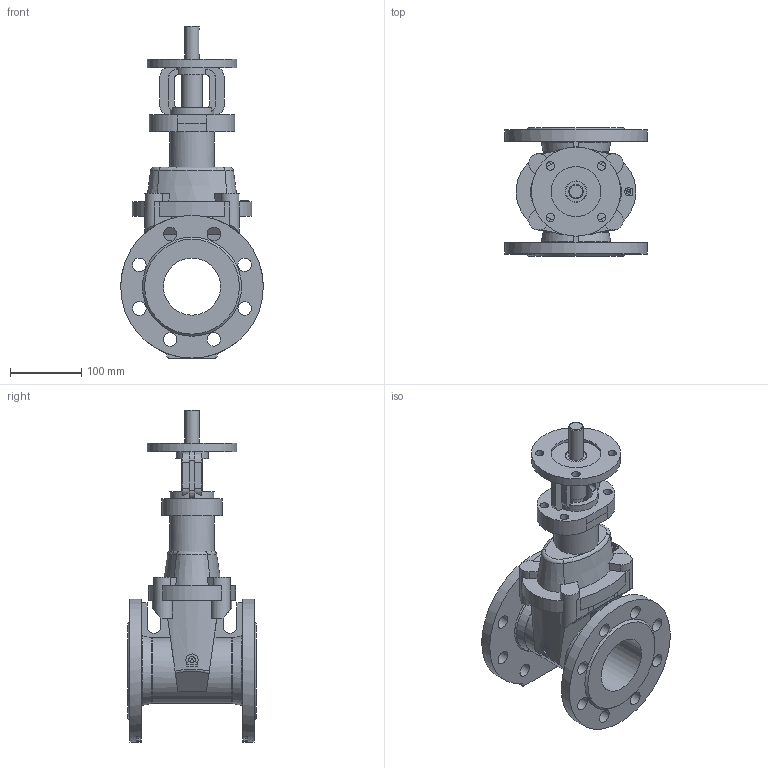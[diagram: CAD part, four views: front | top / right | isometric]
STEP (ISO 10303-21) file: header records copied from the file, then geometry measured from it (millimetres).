
FILE_DESCRIPTION(('STEP AP203'), '1');
FILE_NAME('Çàäâèæêà 47GV.M DN80 ñ ïåðåõîäîì ïîä ISO ôëàíåö', '', ('UNSPECIFIED'), ('UNSPECIFIED'), 'ASCON STEP Converter 1.6', 'ASCON Math Kernel', '');
FILE_SCHEMA(('CONFIG_CONTROL_DESIGN'));
Length unit declared in the file: millimetre
Bounding box: 200 x 180 x 465.5 mm (x, y, z)
Volume: 3036023 mm3; surface area: 387661.8 mm2
Topology: 2 solids, 2 shells, 249 faces, 672 edges, 443 vertices
Faces by surface type: plane 122, cylinder 108, cone 9, torus 8, bspline 2
Full cylindrical faces by diameter (mm): 12 x8, 19 x16, 20 x2, 29 x1, 30 x1, 46 x1, 62 x1, 70 x2, 80 x1, 125 x1, 200 x2
Entity records: 11555 total; most frequent: CARTESIAN_POINT 3241, DIRECTION 1308, ORIENTED_EDGE 1266, EDGE_CURVE 633, AXIS2_PLACEMENT_3D 506, VERTEX_POINT 443, EDGE_LOOP 358, LINE 296
